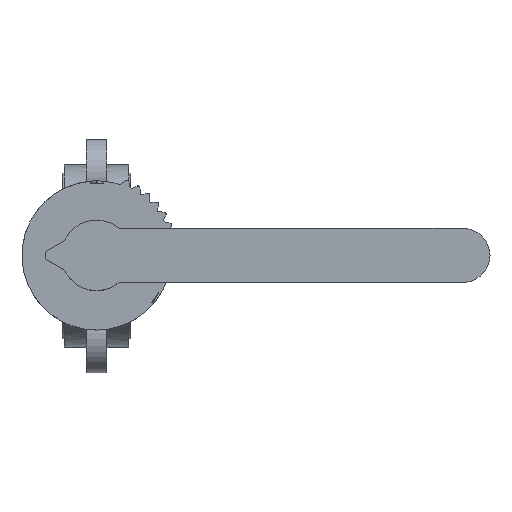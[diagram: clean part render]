
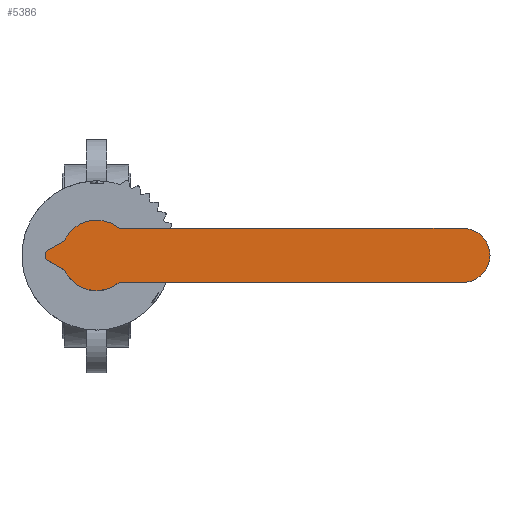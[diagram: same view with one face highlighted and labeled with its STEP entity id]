
A CAD part, top view. The second image highlights one B-rep face of the part: STEP entity #5386.
In plain terms, the highlighted planar face has unit normal (0, 0, 1).
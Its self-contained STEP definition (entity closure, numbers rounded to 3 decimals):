
#5386=ADVANCED_FACE('',(#10578),#10580,.T.);
#10578=FACE_BOUND('',#10579,.T.);
#10579=EDGE_LOOP('',(#14693,#14694,#14695,#14696,#14697,#14698,#14699,#14700,#14701,
#14702,#14703));
#10580=PLANE('',#10581);
#10581=AXIS2_PLACEMENT_3D('',#10582,#10583,#10584);
#10582=CARTESIAN_POINT('',(-1.545,-4.755,165.));
#10583=DIRECTION('',(0.,0.,1.));
#10584=DIRECTION('',(0.951,-0.309,0.));
#14693=ORIENTED_EDGE('',*,*,#17013,.F.);
#14694=ORIENTED_EDGE('',*,*,#17014,.T.);
#14695=ORIENTED_EDGE('',*,*,#17015,.T.);
#14696=ORIENTED_EDGE('',*,*,#17016,.T.);
#14697=ORIENTED_EDGE('',*,*,#17017,.T.);
#14698=ORIENTED_EDGE('',*,*,#17018,.T.);
#14699=ORIENTED_EDGE('',*,*,#17019,.T.);
#14700=ORIENTED_EDGE('',*,*,#17020,.T.);
#14701=ORIENTED_EDGE('',*,*,#17021,.T.);
#14702=ORIENTED_EDGE('',*,*,#17022,.T.);
#14703=ORIENTED_EDGE('',*,*,#17023,.T.);
#17013=EDGE_CURVE('',#20160,#20161,#20162,.F.);
#17014=EDGE_CURVE('',#20160,#20163,#20164,.T.);
#17015=EDGE_CURVE('',#20163,#20165,#20166,.T.);
#17016=EDGE_CURVE('',#20165,#20167,#20168,.T.);
#17017=EDGE_CURVE('',#20167,#20169,#20170,.T.);
#17018=EDGE_CURVE('',#20169,#20171,#20172,.T.);
#17019=EDGE_CURVE('',#20171,#20173,#20174,.T.);
#17020=EDGE_CURVE('',#20173,#20175,#20176,.T.);
#17021=EDGE_CURVE('',#20175,#20177,#20178,.T.);
#17022=EDGE_CURVE('',#20177,#20179,#20180,.T.);
#17023=EDGE_CURVE('',#20179,#20161,#20181,.T.);
#20160=VERTEX_POINT('',#28802);
#20161=VERTEX_POINT('',#28803);
#20162=CIRCLE('',#28804,13.);
#20163=VERTEX_POINT('',#28808);
#20164=LINE('',#28809,#28810);
#20165=VERTEX_POINT('',#28812);
#20166=CIRCLE('',#28813,17.);
#20167=VERTEX_POINT('',#28817);
#20168=CIRCLE('',#28818,17.);
#20169=VERTEX_POINT('',#28822);
#20170=CIRCLE('',#28823,3.);
#20171=VERTEX_POINT('',#28827);
#20172=LINE('',#28828,#28829);
#20173=VERTEX_POINT('',#28831);
#20174=CIRCLE('',#28832,3.);
#20175=VERTEX_POINT('',#28836);
#20176=LINE('',#28837,#28838);
#20177=VERTEX_POINT('',#28840);
#20178=CIRCLE('',#28841,3.);
#20179=VERTEX_POINT('',#28845);
#20180=CIRCLE('',#28846,17.);
#20181=LINE('',#28850,#28851);
#28802=CARTESIAN_POINT('',(177.,13.,165.));
#28803=CARTESIAN_POINT('',(177.,-13.,165.));
#28804=AXIS2_PLACEMENT_3D('',#28805,#28806,#28807);
#28805=CARTESIAN_POINT('',(177.,0.,165.));
#28806=DIRECTION('',(0.,0.,1.));
#28807=DIRECTION('',(0.,-1.,0.));
#28808=CARTESIAN_POINT('',(10.954,13.,165.));
#28809=CARTESIAN_POINT('',(177.,13.,165.));
#28810=VECTOR('',#28811,1.);
#28811=DIRECTION('',(-1.,0.,0.));
#28812=CARTESIAN_POINT('',(2.659,16.791,165.));
#28813=AXIS2_PLACEMENT_3D('',#28814,#28815,#28816);
#28814=CARTESIAN_POINT('',(0.,0.,165.));
#28815=DIRECTION('',(0.,0.,1.));
#28816=DIRECTION('',(0.644,0.765,0.));
#28817=CARTESIAN_POINT('',(-15.113,7.785,165.));
#28818=AXIS2_PLACEMENT_3D('',#28819,#28820,#28821);
#28819=CARTESIAN_POINT('',(0.,0.,165.));
#28820=DIRECTION('',(0.,0.,1.));
#28821=DIRECTION('',(0.156,0.988,0.));
#28822=CARTESIAN_POINT('',(-16.317,6.539,165.));
#28823=AXIS2_PLACEMENT_3D('',#28824,#28825,#28826);
#28824=CARTESIAN_POINT('',(-17.78,9.159,165.));
#28825=DIRECTION('',(0.,0.,-1.));
#28826=DIRECTION('',(0.889,-0.458,0.));
#28827=CARTESIAN_POINT('',(-23.338,2.619,165.));
#28828=CARTESIAN_POINT('',(-16.317,6.539,165.));
#28829=VECTOR('',#28830,1.);
#28830=DIRECTION('',(-0.873,-0.487,0.));
#28831=CARTESIAN_POINT('',(-23.338,-2.619,165.));
#28832=AXIS2_PLACEMENT_3D('',#28833,#28834,#28835);
#28833=CARTESIAN_POINT('',(-21.876,0.,165.));
#28834=DIRECTION('',(0.,0.,1.));
#28835=DIRECTION('',(-0.487,0.873,0.));
#28836=CARTESIAN_POINT('',(-16.317,-6.539,165.));
#28837=CARTESIAN_POINT('',(-23.338,-2.619,165.));
#28838=VECTOR('',#28839,1.);
#28839=DIRECTION('',(0.873,-0.487,0.));
#28840=CARTESIAN_POINT('',(-15.113,-7.785,165.));
#28841=AXIS2_PLACEMENT_3D('',#28842,#28843,#28844);
#28842=CARTESIAN_POINT('',(-17.78,-9.159,165.));
#28843=DIRECTION('',(0.,0.,-1.));
#28844=DIRECTION('',(0.487,0.873,0.));
#28845=CARTESIAN_POINT('',(10.954,-13.,165.));
#28846=AXIS2_PLACEMENT_3D('',#28847,#28848,#28849);
#28847=CARTESIAN_POINT('',(0.,0.,165.));
#28848=DIRECTION('',(0.,0.,1.));
#28849=DIRECTION('',(-0.889,-0.458,0.));
#28850=CARTESIAN_POINT('',(10.954,-13.,165.));
#28851=VECTOR('',#28852,1.);
#28852=DIRECTION('',(1.,0.,0.));
